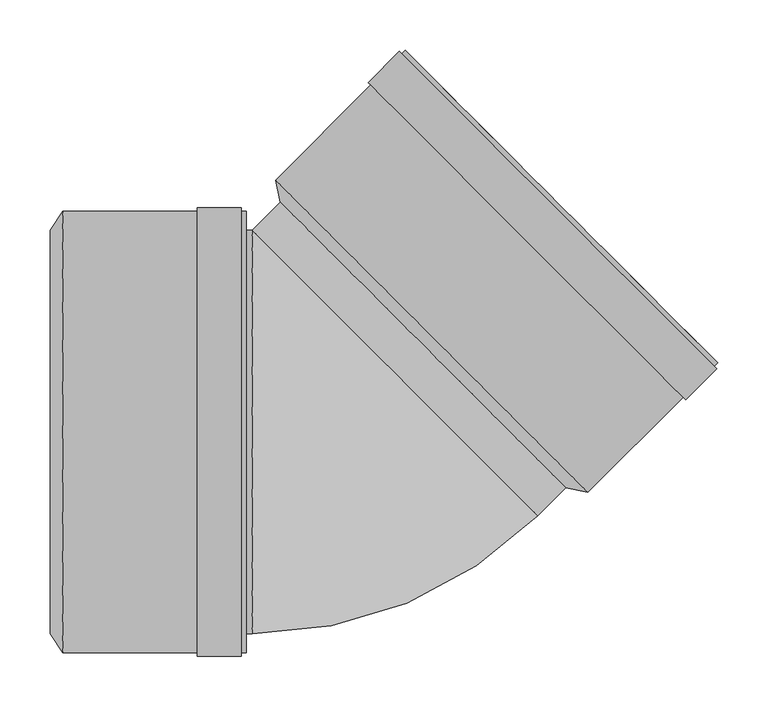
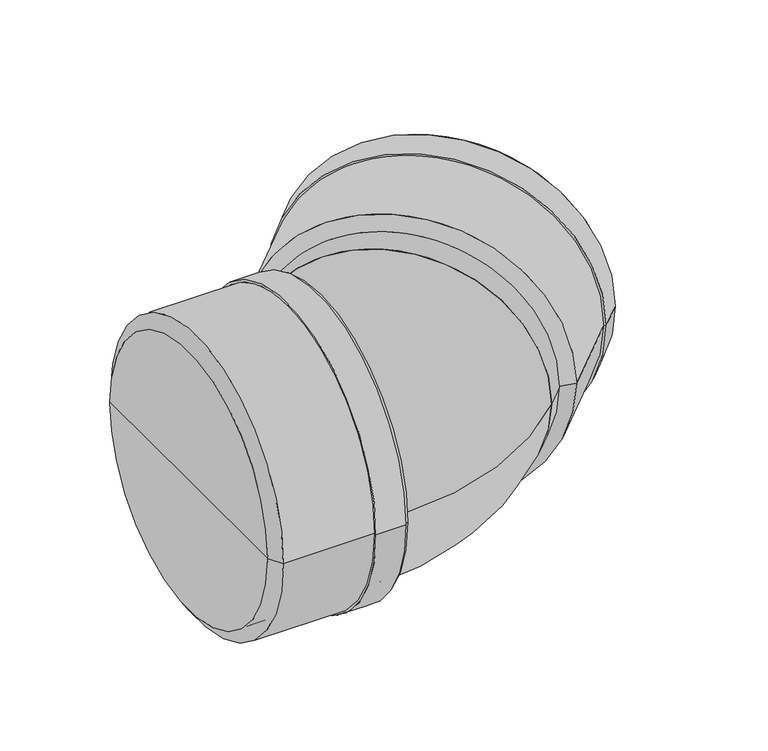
"""IFC4 building model written with IfcOpenShell, lengths in millimetres: pipe fitting geometry, pf_KGB : pf_KGB."""

from ifc_helpers import new_model, si_unit, point, frame, origin, origin_2d, place, context, project, spatial, polyline, circle_curve, ellipse_curve, trimmed, segment, composite_curve, outline, extrude, source, transform, mapped, element, save
from ifc_brep_helpers import plane_surface, cylinder_surface, revolved_surface, advanced_brep


def pipe_fitting_0b5b723b(model_context):
    return source(origin(), model_context, "Body", "SolidModel", [
        advanced_brep(
        [(227.8298049, -55.0129076, 0.0), (-55.0129076, 227.8298049, 0.0), (-59.8919444, 249.9622471, 0.0), (249.9622471, -59.8919444, 0.0), (86.4084487, 86.4084487, 0.0), (378.51426, 68.6600685, 0.0), (68.6600685, 378.51426, 0.0), (82.165808, 365.0085204, 0.0), (365.0085204, 82.165808, 0.0), (65.2659559, 375.1201474, 0.0), (375.1201474, 65.2659559, 0.0), (62.8617928, 377.5243105, 0.0), (377.5243105, 62.8617928, 0.0), (32.0319372, 346.6944548, 0.0), (346.6944548, 32.0319372, 0.0), (34.4361002, 344.2902918, 0.0), (344.2902918, 34.4361002, 0.0), (236.4565076, -46.3862048, 0.0), (-46.3862048, 236.4565076, 0.0), (95.0351514, 95.0351514, 0.0)],
        [
            (0, 1, circle_curve(frame((86.4084487, 86.4084487, 0.0), z_axis=(0.7071067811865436, 0.7071067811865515, 0.0), x_axis=(-0.7071067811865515, 0.7071067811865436, 0.0)), 200.0)),
            (1, 2),
            (2, 3, circle_curve(frame((95.0351514, 95.0351514, 0.0), z_axis=(-0.7071067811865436, -0.7071067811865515, 0.0), x_axis=(-0.7071067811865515, 0.7071067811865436, 0.0)), 219.1)),
            (3, 0),
            (1, 0, circle_curve(frame((86.4084487, 86.4084487, 0.0), z_axis=(0.7071067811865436, 0.7071067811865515, 0.0), x_axis=(-0.7071067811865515, 0.7071067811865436, 0.0)), 200.0)),
            (3, 2, circle_curve(frame((95.0351514, 95.0351514, 0.0), z_axis=(-0.7071067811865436, -0.7071067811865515, 0.0), x_axis=(-0.7071067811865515, 0.7071067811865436, 0.0)), 219.1)),
            (4, 1),
            (0, 4),
            (5, 6, circle_curve(frame((223.5871642, 223.5871642, 0.0), z_axis=(0.7071067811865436, 0.7071067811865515, 0.0), x_axis=(-0.7071067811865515, 0.7071067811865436, 0.0)), 219.1)),
            (6, 7),
            (7, 8, circle_curve(frame((223.5871642, 223.5871642, 0.0), z_axis=(-0.7071067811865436, -0.7071067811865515, 0.0), x_axis=(-0.7071067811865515, 0.7071067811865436, 0.0)), 200.0)),
            (8, 5),
            (9, 10, circle_curve(frame((220.1930517, 220.1930517, 0.0), z_axis=(0.7071067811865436, 0.7071067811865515, 0.0), x_axis=(-0.7071067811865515, 0.7071067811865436, 0.0)), 219.1)),
            (10, 5),
            (5, 6, circle_curve(frame((223.5871642, 223.5871642, 0.0), z_axis=(-0.7071067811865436, -0.7071067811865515, 0.0), x_axis=(-0.7071067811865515, 0.7071067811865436, 0.0)), 219.1)),
            (6, 9),
            (11, 12, circle_curve(frame((220.1930517, 220.1930517, 0.0), z_axis=(0.7071067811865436, 0.7071067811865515, 0.0), x_axis=(-0.7071067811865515, 0.7071067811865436, 0.0)), 222.5)),
            (12, 10),
            (9, 11),
            (13, 14, circle_curve(frame((189.363196, 189.363196, 0.0), z_axis=(0.7071067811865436, 0.7071067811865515, 0.0), x_axis=(-0.7071067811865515, 0.7071067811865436, 0.0)), 222.5)),
            (14, 12),
            (11, 13),
            (15, 16, circle_curve(frame((189.363196, 189.363196, 0.0), z_axis=(0.7071067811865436, 0.7071067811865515, 0.0), x_axis=(-0.7071067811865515, 0.7071067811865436, 0.0)), 219.1)),
            (16, 14),
            (13, 15),
            (8, 7, circle_curve(frame((223.5871642, 223.5871642, 0.0), z_axis=(-0.7071067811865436, -0.7071067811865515, 0.0), x_axis=(-0.7071067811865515, 0.7071067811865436, 0.0)), 200.0)),
            (10, 9, circle_curve(frame((220.1930517, 220.1930517, 0.0), z_axis=(0.7071067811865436, 0.7071067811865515, 0.0), x_axis=(-0.7071067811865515, 0.7071067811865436, 0.0)), 219.1)),
            (12, 11, circle_curve(frame((220.1930517, 220.1930517, 0.0), z_axis=(0.7071067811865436, 0.7071067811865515, 0.0), x_axis=(-0.7071067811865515, 0.7071067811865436, 0.0)), 222.5)),
            (14, 13, circle_curve(frame((189.363196, 189.363196, 0.0), z_axis=(0.7071067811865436, 0.7071067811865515, 0.0), x_axis=(-0.7071067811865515, 0.7071067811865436, 0.0)), 222.5)),
            (16, 15, circle_curve(frame((189.363196, 189.363196, 0.0), z_axis=(0.7071067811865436, 0.7071067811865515, 0.0), x_axis=(-0.7071067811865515, 0.7071067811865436, 0.0)), 219.1)),
            (2, 15),
            (16, 3),
            (17, 18, circle_curve(frame((95.0351514, 95.0351514, 0.0), z_axis=(0.7071067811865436, 0.7071067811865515, 0.0), x_axis=(-0.7071067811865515, 0.7071067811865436, 0.0)), 200.0)),
            (18, 19),
            (19, 17),
            (18, 17, circle_curve(frame((95.0351514, 95.0351514, 0.0), z_axis=(0.7071067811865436, 0.7071067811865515, 0.0), x_axis=(-0.7071067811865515, 0.7071067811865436, 0.0)), 200.0)),
            (7, 18),
            (17, 8),
        ],
        [
            revolved_surface(polyline([(-59.8919444, 249.9622471, 0.0), (-55.0129076, 227.8298049, 0.0)]), (86.4084487, 86.4084487, 0.0), (-0.7071067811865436, -0.7071067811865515, 0.0)),
            plane_surface(frame((86.4084487, 86.4084487, 0.0), z_axis=(-0.7071067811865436, -0.7071067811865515, 0.0), x_axis=(-0.7071067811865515, 0.7071067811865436, 0.0))),
            plane_surface(frame((223.5871642, 223.5871642, 0.0), z_axis=(0.7071067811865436, 0.7071067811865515, 0.0), x_axis=(-0.7071067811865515, 0.7071067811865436, 0.0))),
            cylinder_surface(frame((86.4084487, 86.4084487, 0.0), z_axis=(-0.7071067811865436, -0.7071067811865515, 0.0), x_axis=(-0.7071067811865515, 0.7071067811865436, 0.0)), 219.1),
            plane_surface(frame((220.1930517, 220.1930517, 0.0), z_axis=(0.7071067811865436, 0.7071067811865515, 0.0), x_axis=(-0.7071067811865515, 0.7071067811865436, 0.0))),
            cylinder_surface(frame((86.4084487, 86.4084487, 0.0), z_axis=(-0.7071067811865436, -0.7071067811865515, 0.0), x_axis=(-0.7071067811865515, 0.7071067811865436, 0.0)), 222.5),
            plane_surface(frame((189.363196, 189.363196, 0.0), z_axis=(-0.7071067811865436, -0.7071067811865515, 0.0), x_axis=(-0.7071067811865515, 0.7071067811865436, 0.0))),
            plane_surface(frame((95.0351514, 95.0351514, 0.0), z_axis=(0.7071067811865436, 0.7071067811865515, 0.0), x_axis=(-0.7071067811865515, 0.7071067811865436, 0.0))),
            revolved_surface(polyline([(-46.38620483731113, 236.456507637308, 0.0), (82.1658079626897, 365.00852043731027, 0.0)]), (86.4084487, 86.4084487, 0.0), (-0.7071067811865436, -0.7071067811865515, 0.0)),
        ],
        [
            (0, [[1, 2, 3, 4]]),
            (0, [[5, -4, 6, -2]]),
            (1, [[7, -1, 8]]),
            (1, [[-8, -5, -7]]),
            (2, [[9, 10, 11, 12]]),
            (3, [[13, 14, 15, 16]]),
            (4, [[17, 18, -13, 19]]),
            (5, [[20, 21, -17, 22]]),
            (6, [[23, 24, -20, 25]]),
            (2, [[-15, -12, 26, -10]]),
            (3, [[27, -16, -9, -14]]),
            (4, [[28, -19, -27, -18]]),
            (5, [[29, -22, -28, -21]]),
            (6, [[30, -25, -29, -24]]),
            (3, [[-3, 31, -30, 32]]),
            (3, [[-6, -32, -23, -31]]),
            (7, [[33, 34, 35]]),
            (7, [[36, -35, -34]]),
            (8, [[-11, 37, -33, 38]]),
            (8, [[-26, -38, -36, -37]]),
        ],
    ),
        advanced_brep(
        [(-283.2, -200.0, 0.0), (-283.2, 200.0, 0.0), (-271.0, 219.1, 0.0), (-271.0, -219.1, 0.0), (-283.2, 0.0, 0.0), (-89.2, -219.1, 0.0), (-89.2, 219.1, 0.0), (-89.2, 200.0, 0.0), (-89.2, -200.0, 0.0), (-94.0, 219.1, 0.0), (-94.0, -219.1, 0.0), (-94.0, 222.5, 0.0), (-94.0, -222.5, 0.0), (-137.6, 222.5, 0.0), (-137.6, -222.5, 0.0), (-137.6, 219.1, 0.0), (-137.6, -219.1, 0.0), (-271.0, -200.0, 0.0), (-271.0, 200.0, 0.0), (-271.0, 0.0, 0.0)],
        [
            (0, 1, circle_curve(frame((-283.2, 0.0, 0.0), z_axis=(1.0, 0.0, 0.0), x_axis=(0.0, 1.0, 0.0)), 200.0)),
            (1, 2),
            (2, 3, circle_curve(frame((-271.0, 0.0, 0.0), z_axis=(-1.0, 0.0, 0.0), x_axis=(0.0, 1.0, 0.0)), 219.1)),
            (3, 0),
            (1, 0, circle_curve(frame((-283.2, 0.0, 0.0), z_axis=(1.0, 0.0, 0.0), x_axis=(0.0, 1.0, 0.0)), 200.0)),
            (3, 2, circle_curve(frame((-271.0, 0.0, 0.0), z_axis=(-1.0, 0.0, 0.0), x_axis=(0.0, 1.0, 0.0)), 219.1)),
            (4, 1),
            (0, 4),
            (5, 6, circle_curve(frame((-89.2, 0.0, 0.0), z_axis=(1.0, 0.0, 0.0), x_axis=(0.0, 1.0, 0.0)), 219.1)),
            (6, 7),
            (7, 8, circle_curve(frame((-89.2, 0.0, 0.0), z_axis=(-1.0, 0.0, 0.0), x_axis=(0.0, 1.0, 0.0)), 200.0)),
            (8, 5),
            (9, 10, circle_curve(frame((-94.0, 0.0, 0.0), z_axis=(1.0, 0.0, 0.0), x_axis=(0.0, 1.0, 0.0)), 219.1)),
            (10, 5),
            (5, 6, circle_curve(frame((-89.2, 0.0, 0.0), z_axis=(-1.0, 0.0, 0.0), x_axis=(0.0, 1.0, 0.0)), 219.1)),
            (6, 9),
            (11, 12, circle_curve(frame((-94.0, 0.0, 0.0), z_axis=(1.0, 0.0, 0.0), x_axis=(0.0, 1.0, 0.0)), 222.5)),
            (12, 10),
            (9, 11),
            (13, 14, circle_curve(frame((-137.6, 0.0, 0.0), z_axis=(1.0, 0.0, 0.0), x_axis=(0.0, 1.0, 0.0)), 222.5)),
            (14, 12),
            (11, 13),
            (15, 16, circle_curve(frame((-137.6, 0.0, 0.0), z_axis=(1.0, 0.0, 0.0), x_axis=(0.0, 1.0, 0.0)), 219.1)),
            (16, 14),
            (13, 15),
            (8, 7, circle_curve(frame((-89.2, 0.0, 0.0), z_axis=(-1.0, 0.0, 0.0), x_axis=(0.0, 1.0, 0.0)), 200.0)),
            (10, 9, circle_curve(frame((-94.0, 0.0, 0.0), z_axis=(1.0, 0.0, 0.0), x_axis=(0.0, 1.0, 0.0)), 219.1)),
            (12, 11, circle_curve(frame((-94.0, 0.0, 0.0), z_axis=(1.0, 0.0, 0.0), x_axis=(0.0, 1.0, 0.0)), 222.5)),
            (14, 13, circle_curve(frame((-137.6, 0.0, 0.0), z_axis=(1.0, 0.0, 0.0), x_axis=(0.0, 1.0, 0.0)), 222.5)),
            (16, 15, circle_curve(frame((-137.6, 0.0, 0.0), z_axis=(1.0, 0.0, 0.0), x_axis=(0.0, 1.0, 0.0)), 219.1)),
            (2, 15),
            (16, 3),
            (17, 18, circle_curve(frame((-271.0, 0.0, 0.0), z_axis=(1.0, 0.0, 0.0), x_axis=(0.0, 1.0, 0.0)), 200.0)),
            (18, 19),
            (19, 17),
            (18, 17, circle_curve(frame((-271.0, 0.0, 0.0), z_axis=(1.0, 0.0, 0.0), x_axis=(0.0, 1.0, 0.0)), 200.0)),
            (7, 18),
            (17, 8),
        ],
        [
            revolved_surface(polyline([(-271.0, 219.1, 0.0), (-283.2, 200.0, 0.0)]), (-283.2, 0.0, 0.0), (-1.0, 0.0, 0.0)),
            plane_surface(frame((-283.2, 0.0, 0.0), z_axis=(-1.0, 0.0, 0.0), x_axis=(0.0, 1.0, 0.0))),
            plane_surface(frame((-89.2, 0.0, 0.0), z_axis=(1.0, 0.0, 0.0), x_axis=(0.0, 1.0, 0.0))),
            cylinder_surface(frame((-283.2, 0.0, 0.0), z_axis=(-1.0, 0.0, 0.0), x_axis=(0.0, 1.0, 0.0)), 219.1),
            plane_surface(frame((-94.0, 0.0, 0.0), z_axis=(1.0, 0.0, 0.0), x_axis=(0.0, 1.0, 0.0))),
            cylinder_surface(frame((-283.2, 0.0, 0.0), z_axis=(-1.0, 0.0, 0.0), x_axis=(0.0, 1.0, 0.0)), 222.5),
            plane_surface(frame((-137.6, 0.0, 0.0), z_axis=(-1.0, 0.0, 0.0), x_axis=(0.0, 1.0, 0.0))),
            plane_surface(frame((-271.0, 0.0, 0.0), z_axis=(1.0, 0.0, 0.0), x_axis=(0.0, 1.0, 0.0))),
            revolved_surface(polyline([(-271.0, 200.0, 0.0), (-89.19999999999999, 200.0, 0.0)]), (-283.2, 0.0, 0.0), (-1.0, 0.0, 0.0)),
        ],
        [
            (0, [[1, 2, 3, 4]]),
            (0, [[5, -4, 6, -2]]),
            (1, [[7, -1, 8]]),
            (1, [[-8, -5, -7]]),
            (2, [[9, 10, 11, 12]]),
            (3, [[13, 14, 15, 16]]),
            (4, [[17, 18, -13, 19]]),
            (5, [[20, 21, -17, 22]]),
            (6, [[23, 24, -20, 25]]),
            (2, [[-15, -12, 26, -10]]),
            (3, [[27, -16, -9, -14]]),
            (4, [[28, -19, -27, -18]]),
            (5, [[29, -22, -28, -21]]),
            (6, [[30, -25, -29, -24]]),
            (3, [[-3, 31, -30, 32]]),
            (3, [[-6, -32, -23, -31]]),
            (7, [[33, 34, 35]]),
            (7, [[36, -35, -34]]),
            (8, [[-11, 37, -33, 38]]),
            (8, [[-26, -38, -36, -37]]),
        ],
    ),
        extrude(outline(composite_curve([segment(trimmed(circle_curve(origin_2d(), 200.0), [point((0.0, -200.0))], [point((0.0, 200.0))], False, "CARTESIAN"), True, "CONTINUOUS"), segment(trimmed(circle_curve(origin_2d(), 200.0), [point((0.0, 200.0))], [point((0.0, -200.0))], False, "CARTESIAN"), True, "CONTINUOUS")], self_intersect=False)), frame((58.5786438, 58.5786438, 0.0), z_axis=(0.707106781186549, 0.7071067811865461, 0.0), x_axis=(0.0, 0.0, 1.0)), (0.0, 0.0, 1.0), 39.3572875),
        extrude(outline(composite_curve([segment(trimmed(circle_curve(origin_2d(), 200.0), [point((-200.0, 0.0))], [point((200.0, 0.0))], False, "CARTESIAN"), True, "CONTINUOUS"), segment(trimmed(circle_curve(origin_2d(), 200.0), [point((200.0, 0.0))], [point((-200.0, 0.0))], False, "CARTESIAN"), True, "CONTINUOUS")], self_intersect=False)), frame((-271.0, 0.0, 0.0), z_axis=(1.0, 0.0, 0.0), x_axis=(0.0, 1.0, 0.0)), (0.0, 0.0, 1.0), 188.1572875),
        advanced_brep(
        [(-82.8427125, -200.0, 0.0), (-82.8427125, 200.0, 0.0), (200.0, -82.8427125, 0.0)],
        [
            (0, 1, circle_curve(frame((-82.8427125, 0.0, 0.0), z_axis=(-1.0, 0.0, 0.0), x_axis=(0.0, 1.0, 0.0)), 200.0)),
            (1, 0, circle_curve(frame((-82.8427125, 0.0, 0.0), z_axis=(-1.0, 0.0, 0.0), x_axis=(0.0, 1.0, 0.0)), 200.0)),
            (2, 1, circle_curve(frame((58.5786438, 58.5786438, 0.0), z_axis=(0.7071067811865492, 0.7071067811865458, 0.0), x_axis=(-0.7071067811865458, 0.7071067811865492, 0.0)), 200.0)),
            (1, 2, circle_curve(frame((58.5786438, 58.5786438, 0.0), z_axis=(0.7071067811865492, 0.7071067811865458, 0.0), x_axis=(-0.7071067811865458, 0.7071067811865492, 0.0)), 200.0)),
            (2, 0, circle_curve(frame((-82.8427125, 200.0, 0.0), z_axis=(0.0, 0.0, -1.0), x_axis=(0.0, -1.0, 0.0)), 400.0)),
        ],
        [
            plane_surface(frame((-82.8427125, 200.0, -14.8), z_axis=(-1.0, 0.0, 0.0), x_axis=(0.0, -1.0, 0.0))),
            plane_surface(frame((-82.8427125, 200.0, -14.8), z_axis=(0.7071067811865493, 0.7071067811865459, 0.0), x_axis=(0.7071067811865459, -0.7071067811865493, 0.0))),
            revolved_surface(trimmed(ellipse_curve(frame((-82.8427125, 0.0, 0.0), z_axis=(1.0, 0.0, 0.0), x_axis=(0.0, 1.0, 0.0)), 200.0, 200.0), [point((-82.8427125, -200.0, 0.0))], [point((-82.8427125, 200.0, 0.0))], True, "CARTESIAN"), (-82.8427125, 200.0, -14.8), (0.0, 0.0, -1.0)),
            revolved_surface(trimmed(ellipse_curve(frame((-82.8427125, 0.0, 0.0), z_axis=(1.0, 0.0, 0.0), x_axis=(0.0, 1.0, 0.0)), 200.0, 200.0), [point((-82.8427125, 200.0, 0.0))], [point((-82.8427125, -200.0, 0.0))], True, "CARTESIAN"), (-82.8427125, 200.0, -14.8), (0.0, 0.0, -1.0)),
        ],
        [
            (0, [[1, 2]]),
            (1, [[3, 4]]),
            (2, [[5, -2, -3]]),
            (3, [[-1, -5, -4]]),
        ],
    ),
    ])


if __name__ == "__main__":
    model = new_model("IFC4")
    model_context = context("Model", 3, world=origin())
    ifc_project = project(units=[si_unit("LENGTHUNIT", "METRE", prefix="MILLI")], contexts=[model_context])
    site = spatial("IfcSite", under=ifc_project)
    building = spatial("IfcBuilding", under=site)
    placement = place(None, origin())
    pipe_fitting_shape = pipe_fitting_0b5b723b(model_context)
    element("IfcPipeFitting", 1, ObjectType="pf_KGB : pf_KGB", at=placement, inside=building, context=model_context, shape_type="MappedRepresentation", body=[
        mapped(pipe_fitting_shape, transform((0.0, 0.0, 0.0), x_axis=(1.0, 0.0, 0.0), y_axis=(0.0, 1.0, 0.0), z_axis=(0.0, 0.0, 1.0))),
    ])
    save(model, "model.ifc")
